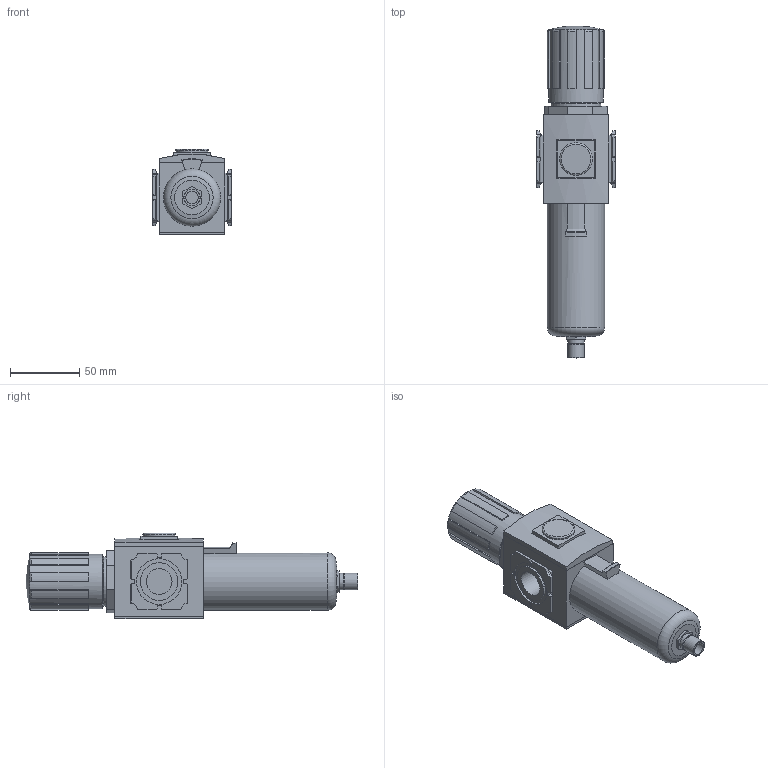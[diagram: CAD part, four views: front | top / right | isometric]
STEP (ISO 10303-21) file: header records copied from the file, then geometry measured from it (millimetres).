
FILE_DESCRIPTION( ( 'STEP AP214' ), '1' );
FILE_NAME( 'C:/Users/emc03072/Desktop/EAW/EAW3000-04FJ2.stp', '2026-08-14T16:25:52', ( 'License CC BY-ND 4.0' ), ( 'CADENAS' ), ' ', 'PARTsolutions', ' ' );
FILE_SCHEMA( ( 'AUTOMOTIVE_DESIGN { 1 0 10303 214 1 1 1 1 }' ) );
Length unit declared in the file: millimetre
Products named in the file (2): EAW3000-04FJ2; _EAW3000-04FJ2-body
Assembly tree (1 placements, depth 2):
  EAW3000-04FJ2
    _EAW3000-04FJ2-body
Bounding box: 57 x 239.64 x 61.6 mm (x, y, z)
Volume: 390904.7 mm3; surface area: 47273 mm2
Topology: 1 solids, 2 shells, 254 faces, 682 edges, 452 vertices
Faces by surface type: plane 192, cylinder 39, torus 16, cone 6, sphere 1
Full cylindrical faces by diameter (mm): 9 x1, 12 x2, 18.631 x2, 23.5 x1, 27.06 x2, 32.94 x2, 36 x2, 39.26 x1, 41.322 x1
Entity records: 9870 total; most frequent: CARTESIAN_POINT 1363, DIRECTION 1338, ORIENTED_EDGE 1312, EDGE_CURVE 656, LINE 486, VECTOR 486, VERTEX_POINT 451, AXIS2_PLACEMENT_3D 426
